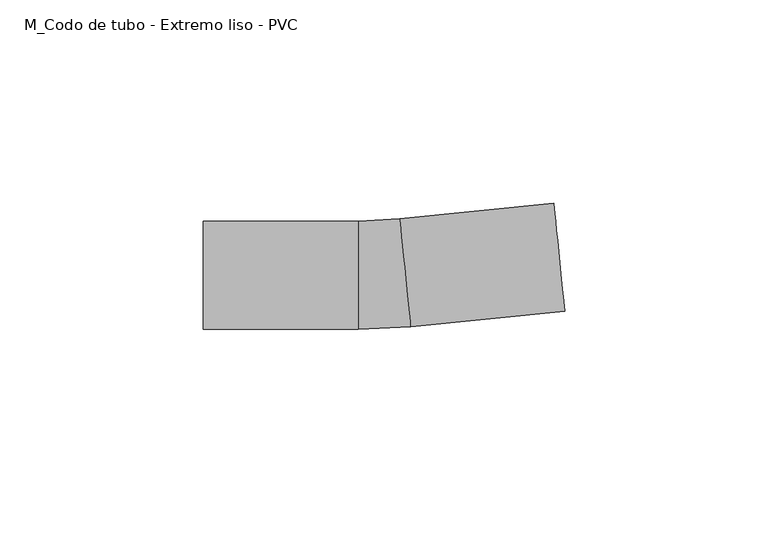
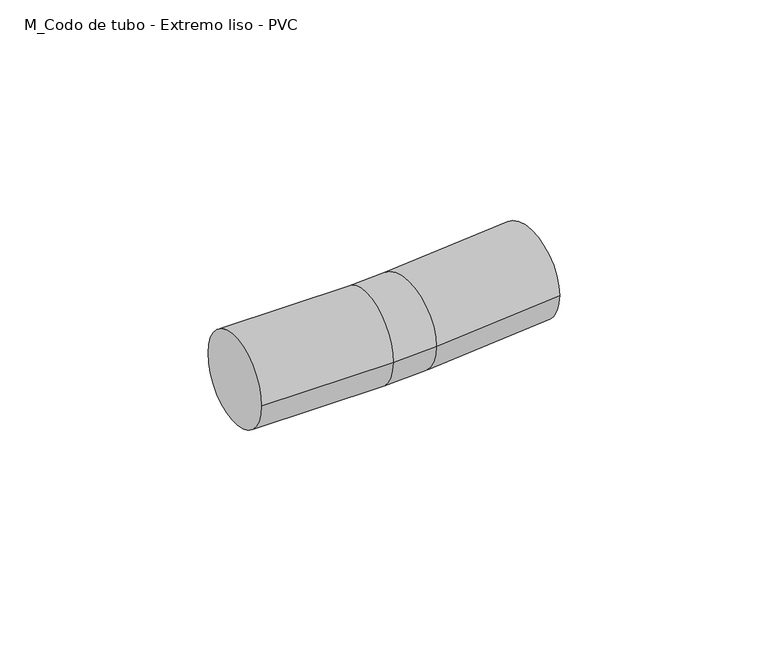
"""IFC4 building model written with IfcOpenShell, lengths in millimetres: cable carrier fitting geometry, M_Codo de tubo - Extremo liso - PVC : CODO ILUMINACION."""

from ifc_helpers import new_model, si_unit, point, frame, origin, place, context, project, spatial, circle_curve, ellipse_curve, trimmed, source, transform, mapped, element, save
from ifc_brep_helpers import plane_surface, cylinder_surface, revolved_surface, advanced_brep


def m_codo_de_tubo_extremo_liso_pvc_826ff18e(model_context):
    return source(origin(), model_context, "Body", "AdvancedBrep", [
        advanced_brep(
        [(-43.8823269, -13.335, 0.0), (-43.8823269, 13.335, 0.0), (-5.7823269, -13.335, 0.0), (-5.7823269, 13.335, 0.0), (4.4070401, 13.8504703, 0.0), (7.0985711, -12.6833678, 0.0), (45.004054, -8.8383236, 0.0), (42.3125231, 17.6955144, 0.0)],
        [
            (0, 1, circle_curve(frame((-43.8823269, 0.0, 0.0), z_axis=(-1.0, 0.0, 0.0), x_axis=(0.0, 1.0, 0.0)), 13.335)),
            (1, 0, circle_curve(frame((-43.8823269, 0.0, 0.0), z_axis=(-1.0, 0.0, 0.0), x_axis=(0.0, 1.0, 0.0)), 13.335)),
            (0, 2),
            (2, 3, circle_curve(frame((-5.7823269, 0.0, 0.0), z_axis=(-1.0, 0.0, 0.0), x_axis=(0.0, 1.0, 0.0)), 13.335)),
            (3, 1),
            (3, 2, circle_curve(frame((-5.7823269, 0.0, 0.0), z_axis=(-1.0, 0.0, 0.0), x_axis=(0.0, 1.0, 0.0)), 13.335)),
            (4, 3, circle_curve(frame((-5.7823269, 114.3, 0.0), z_axis=(0.0, 0.0, -1.0), x_axis=(0.0, -1.0, 0.0)), 100.965)),
            (2, 5, circle_curve(frame((-5.7823269, 114.3, 0.0), z_axis=(0.0, 0.0, 1.0), x_axis=(0.0, -1.0, 0.0)), 127.635)),
            (5, 4, circle_curve(frame((5.7528056, 0.5835512, 0.0), z_axis=(-0.9948945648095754, -0.1009197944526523, 0.0), x_axis=(-0.1009197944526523, 0.9948945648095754, 0.0)), 13.335)),
            (4, 5, circle_curve(frame((5.7528056, 0.5835512, 0.0), z_axis=(-0.9948945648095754, -0.10091979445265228, 0.0), x_axis=(-0.10091979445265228, 0.9948945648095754, 0.0)), 13.335)),
            (6, 7, circle_curve(frame((43.6582885, 4.4285954, 0.0), z_axis=(0.9948945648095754, 0.10091979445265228, 0.0), x_axis=(-0.10091979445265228, 0.9948945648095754, 0.0)), 13.335)),
            (7, 6, circle_curve(frame((43.6582885, 4.4285954, 0.0), z_axis=(0.9948945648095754, 0.10091979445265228, 0.0), x_axis=(-0.10091979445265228, 0.9948945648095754, 0.0)), 13.335)),
            (5, 6),
            (7, 4),
        ],
        [
            plane_surface(frame((-43.8823269, 0.0, 0.0), z_axis=(-1.0, 0.0, 0.0), x_axis=(0.0, 0.0, 1.0))),
            cylinder_surface(frame((-43.8823269, 0.0, 0.0), z_axis=(-1.0, 0.0, 0.0), x_axis=(0.0, 1.0, 0.0)), 13.335),
            revolved_surface(trimmed(ellipse_curve(frame((-5.7823269, 0.0, 0.0), z_axis=(-1.0, 0.0, 0.0), x_axis=(0.0, 1.0, 0.0)), 13.335, 13.335), [point((-5.7823269, -13.335, 0.0))], [point((-5.7823269, 13.335, 0.0))], True, "CARTESIAN"), (-5.7823269, 114.3, 0.0), (0.0, 0.0, 1.0)),
            revolved_surface(trimmed(ellipse_curve(frame((-5.7823269, 0.0, 0.0), z_axis=(-1.0, 0.0, 0.0), x_axis=(0.0, 1.0, 0.0)), 13.335, 13.335), [point((-5.7823269, 13.335, 0.0))], [point((-5.7823269, -13.335, 0.0))], True, "CARTESIAN"), (-5.7823269, 114.3, 0.0), (0.0, 0.0, 1.0)),
            plane_surface(frame((43.6582885, 4.4285954, 0.0), z_axis=(0.9948945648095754, 0.10091979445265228, 0.0), x_axis=(0.0, 0.0, 1.0))),
            cylinder_surface(frame((5.7528056, 0.5835512, 0.0), z_axis=(-0.9948945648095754, -0.10091979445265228, 0.0), x_axis=(-0.10091979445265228, 0.9948945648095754, 0.0)), 13.335),
        ],
        [
            (0, [[1, 2]]),
            (1, [[-1, 3, 4, 5]]),
            (1, [[-2, -5, 6, -3]]),
            (2, [[7, -4, 8, 9]]),
            (3, [[-8, -6, -7, 10]]),
            (4, [[11, 12]]),
            (5, [[-9, 13, -12, 14]]),
            (5, [[-10, -14, -11, -13]]),
        ],
    ),
    ])


if __name__ == "__main__":
    model = new_model("IFC4")
    model_context = context("Model", 3, world=origin())
    ifc_project = project(units=[si_unit("LENGTHUNIT", "METRE", prefix="MILLI")], contexts=[model_context])
    site = spatial("IfcSite", under=ifc_project)
    building = spatial("IfcBuilding", under=site)
    placement = place(None, origin())
    m_codo_de_tubo_extremo_liso_pvc_shape = m_codo_de_tubo_extremo_liso_pvc_826ff18e(model_context)
    element("IfcCableCarrierFitting", 1, ObjectType="M_Codo de tubo - Extremo liso - PVC : CODO ILUMINACION", at=placement, inside=building, context=model_context, shape_type="MappedRepresentation", body=[
        mapped(m_codo_de_tubo_extremo_liso_pvc_shape, transform((0.0, 0.0, 0.0), x_axis=(1.0, 0.0, 0.0), y_axis=(0.0, 1.0, 0.0), z_axis=(0.0, 0.0, 1.0))),
    ])
    save(model, "model.ifc")
